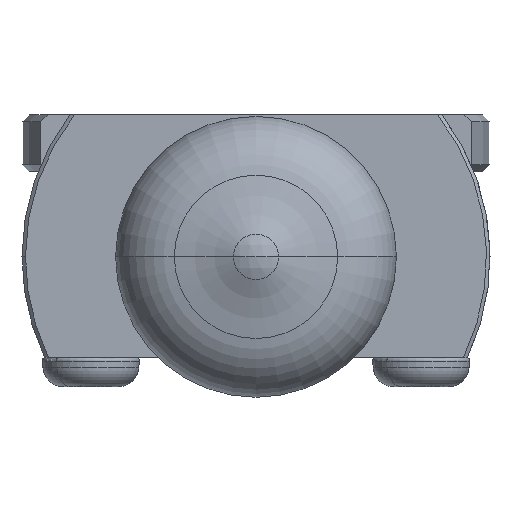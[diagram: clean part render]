
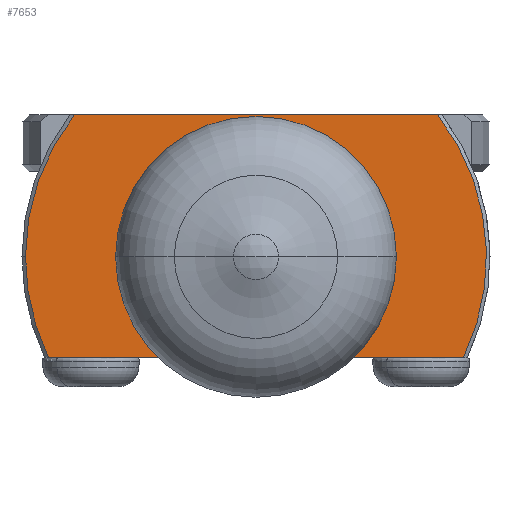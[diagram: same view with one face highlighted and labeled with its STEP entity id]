
A CAD part, left-side view. The second image highlights one B-rep face of the part: STEP entity #7653.
In plain terms, the highlighted planar face has unit normal (-1, 0, 0).
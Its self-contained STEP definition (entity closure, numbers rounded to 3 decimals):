
#4 = EDGE_LOOP ( 'NONE', ( #2019, #2262 ) ) ;
#32 = CARTESIAN_POINT ( 'NONE',  ( -2.12, -0.289, 4.1 ) ) ;
#53 = AXIS2_PLACEMENT_3D ( 'NONE', #3357, #8843, #11848 ) ;
#64 = VECTOR ( 'NONE', #3292, 1000. ) ;
#264 = ORIENTED_EDGE ( 'NONE', *, *, #7180, .T. ) ;
#559 = EDGE_CURVE ( 'NONE', #8357, #7513, #3578, .T. ) ;
#646 = DIRECTION ( 'NONE',  ( 0., 1., 0. ) ) ;
#767 = CIRCLE ( 'NONE', #10367, 2.675 ) ;
#1172 = DIRECTION ( 'NONE',  ( 1., 0., 0. ) ) ;
#1208 = DIRECTION ( 'NONE',  ( 0., 0., -1. ) ) ;
#1310 = CIRCLE ( 'NONE', #6215, 6.65 ) ;
#1314 = VERTEX_POINT ( 'NONE', #6340 ) ;
#1366 = EDGE_CURVE ( 'NONE', #1314, #11710, #2378, .T. ) ;
#1394 = DIRECTION ( 'NONE',  ( 0., 1., 0. ) ) ;
#2019 = ORIENTED_EDGE ( 'NONE', *, *, #4469, .T. ) ;
#2085 = VERTEX_POINT ( 'NONE', #2884 ) ;
#2162 = CARTESIAN_POINT ( 'NONE',  ( -2.12, 4.785, 0. ) ) ;
#2184 = DIRECTION ( 'NONE',  ( 0., 1., 0. ) ) ;
#2238 = EDGE_CURVE ( 'NONE', #8357, #7866, #10939, .T. ) ;
#2262 = ORIENTED_EDGE ( 'NONE', *, *, #1366, .T. ) ;
#2292 = CARTESIAN_POINT ( 'NONE',  ( -2.12, 0., 0. ) ) ;
#2353 = DIRECTION ( 'NONE',  ( -1., 0., 0. ) ) ;
#2378 = CIRCLE ( 'NONE', #53, 2.675 ) ;
#2638 = DIRECTION ( 'NONE',  ( 1., 0., 0. ) ) ;
#2699 = EDGE_CURVE ( 'NONE', #7866, #10755, #1310, .T. ) ;
#2884 = CARTESIAN_POINT ( 'NONE',  ( -2.12, -5.236, 4.1 ) ) ;
#2972 = ORIENTED_EDGE ( 'NONE', *, *, #10320, .F. ) ;
#3292 = DIRECTION ( 'NONE',  ( 0., -1., 0. ) ) ;
#3357 = CARTESIAN_POINT ( 'NONE',  ( -2.12, 0., 0. ) ) ;
#3578 = LINE ( 'NONE', #11884, #64 ) ;
#3734 = DIRECTION ( 'NONE',  ( 1., 0., 0. ) ) ;
#3971 = DIRECTION ( 'NONE',  ( 0., 1., 0. ) ) ;
#4060 = AXIS2_PLACEMENT_3D ( 'NONE', #2162, #2353, #13219 ) ;
#4200 = CARTESIAN_POINT ( 'NONE',  ( -2.12, 0., 0. ) ) ;
#4346 = DIRECTION ( 'NONE',  ( 1., 0., 0. ) ) ;
#4469 = EDGE_CURVE ( 'NONE', #11710, #1314, #767, .T. ) ;
#4618 = EDGE_LOOP ( 'NONE', ( #4958, #2972, #264, #12372, #10221 ) ) ;
#4868 = FACE_OUTER_BOUND ( 'NONE', #4618, .T. ) ;
#4958 = ORIENTED_EDGE ( 'NONE', *, *, #559, .T. ) ;
#5502 = CARTESIAN_POINT ( 'NONE',  ( -2.12, 5.236, 4.1 ) ) ;
#5693 = CARTESIAN_POINT ( 'NONE',  ( -2.12, 6.65, 0. ) ) ;
#6215 = AXIS2_PLACEMENT_3D ( 'NONE', #4200, #4346, #2184 ) ;
#6316 = PLANE ( 'NONE',  #4060 ) ;
#6340 = CARTESIAN_POINT ( 'NONE',  ( -2.12, 0., 2.675 ) ) ;
#6770 = VECTOR ( 'NONE', #1394, 1000. ) ;
#7180 = EDGE_CURVE ( 'NONE', #2085, #10755, #7268, .T. ) ;
#7268 = LINE ( 'NONE', #32, #6770 ) ;
#7513 = VERTEX_POINT ( 'NONE', #9449 ) ;
#7653 = ADVANCED_FACE ( 'NONE', ( #13852, #4868 ), #6316, .T. ) ;
#7866 = VERTEX_POINT ( 'NONE', #5693 ) ;
#8138 = CARTESIAN_POINT ( 'NONE',  ( -2.12, 0., 0. ) ) ;
#8357 = VERTEX_POINT ( 'NONE', #10191 ) ;
#8843 = DIRECTION ( 'NONE',  ( 1., 0., 0. ) ) ;
#9368 = AXIS2_PLACEMENT_3D ( 'NONE', #2292, #3734, #3971 ) ;
#9394 = CIRCLE ( 'NONE', #11304, 6.65 ) ;
#9449 = CARTESIAN_POINT ( 'NONE',  ( -2.12, -5.984, -2.9 ) ) ;
#9510 = CARTESIAN_POINT ( 'NONE',  ( -2.12, 0., -2.675 ) ) ;
#10191 = CARTESIAN_POINT ( 'NONE',  ( -2.12, 5.984, -2.9 ) ) ;
#10221 = ORIENTED_EDGE ( 'NONE', *, *, #2238, .F. ) ;
#10320 = EDGE_CURVE ( 'NONE', #2085, #7513, #9394, .T. ) ;
#10367 = AXIS2_PLACEMENT_3D ( 'NONE', #10862, #1172, #1208 ) ;
#10755 = VERTEX_POINT ( 'NONE', #5502 ) ;
#10862 = CARTESIAN_POINT ( 'NONE',  ( -2.12, 0., 0. ) ) ;
#10939 = CIRCLE ( 'NONE', #9368, 6.65 ) ;
#11304 = AXIS2_PLACEMENT_3D ( 'NONE', #8138, #2638, #646 ) ;
#11710 = VERTEX_POINT ( 'NONE', #9510 ) ;
#11848 = DIRECTION ( 'NONE',  ( 0., 0., -1. ) ) ;
#11884 = CARTESIAN_POINT ( 'NONE',  ( -2.12, 5.44, -2.9 ) ) ;
#12372 = ORIENTED_EDGE ( 'NONE', *, *, #2699, .F. ) ;
#13219 = DIRECTION ( 'NONE',  ( 0., 0.707, 0.707 ) ) ;
#13852 = FACE_BOUND ( 'NONE', #4, .T. ) ;
